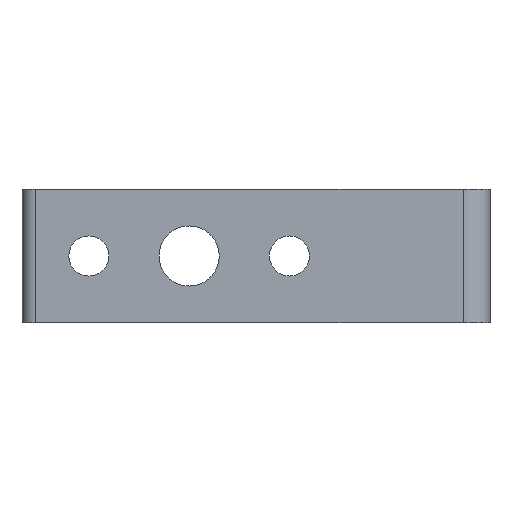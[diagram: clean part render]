
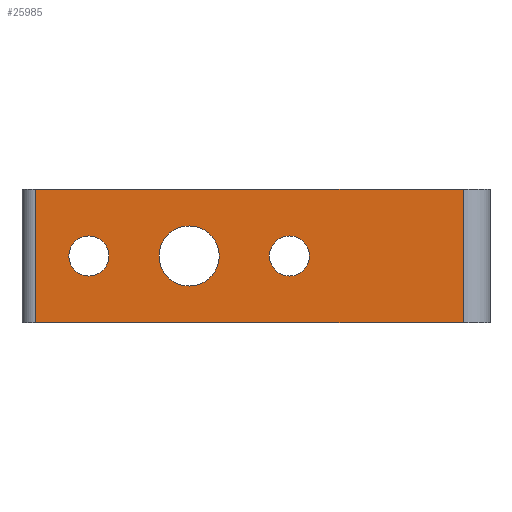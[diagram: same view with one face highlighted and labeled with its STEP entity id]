
A CAD part, left-side view. The second image highlights one B-rep face of the part: STEP entity #25985.
In plain terms, the highlighted planar face has unit normal (-1, 0, 0).
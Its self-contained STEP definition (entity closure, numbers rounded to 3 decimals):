
#472 = DIRECTION ( 'NONE',  ( 1., 0., 0. ) ) ;
#691 = LINE ( 'NONE', #5541, #21060 ) ;
#930 = CARTESIAN_POINT ( 'NONE',  ( 0., 30., 0. ) ) ;
#1106 = DIRECTION ( 'NONE',  ( -1., 0., 0. ) ) ;
#1277 = AXIS2_PLACEMENT_3D ( 'NONE', #13210, #472, #18331 ) ;
#1383 = DIRECTION ( 'NONE',  ( 0., -1., 0. ) ) ;
#1403 = VERTEX_POINT ( 'NONE', #29159 ) ;
#2052 = DIRECTION ( 'NONE',  ( -1., 0., 0. ) ) ;
#2522 = ORIENTED_EDGE ( 'NONE', *, *, #21834, .F. ) ;
#3502 = DIRECTION ( 'NONE',  ( 0., 0., 1. ) ) ;
#3549 = CARTESIAN_POINT ( 'NONE',  ( 0., 30., 3. ) ) ;
#3662 = LINE ( 'NONE', #4706, #23229 ) ;
#4160 = EDGE_LOOP ( 'NONE', ( #31033, #2522 ) ) ;
#4706 = CARTESIAN_POINT ( 'NONE',  ( 0., 68., 10. ) ) ;
#4753 = AXIS2_PLACEMENT_3D ( 'NONE', #930, #18781, #3502 ) ;
#4933 = ORIENTED_EDGE ( 'NONE', *, *, #16118, .F. ) ;
#5173 = ORIENTED_EDGE ( 'NONE', *, *, #17883, .F. ) ;
#5541 = CARTESIAN_POINT ( 'NONE',  ( 0., 4., 10. ) ) ;
#5678 = AXIS2_PLACEMENT_3D ( 'NONE', #16418, #1106, #18973 ) ;
#5794 = EDGE_CURVE ( 'NONE', #1403, #13247, #27911, .T. ) ;
#6539 = DIRECTION ( 'NONE',  ( 0., -1., 0. ) ) ;
#7187 = CARTESIAN_POINT ( 'NONE',  ( 0., 60., 0. ) ) ;
#7714 = ORIENTED_EDGE ( 'NONE', *, *, #32211, .T. ) ;
#7828 = CARTESIAN_POINT ( 'NONE',  ( 0., 45., -4.5 ) ) ;
#7860 = CARTESIAN_POINT ( 'NONE',  ( 0., 60., -3. ) ) ;
#8267 = AXIS2_PLACEMENT_3D ( 'NONE', #7187, #25040, #9742 ) ;
#8455 = EDGE_CURVE ( 'NONE', #31991, #20953, #3662, .T. ) ;
#8744 = EDGE_CURVE ( 'NONE', #18589, #27074, #20778, .T. ) ;
#8802 = CIRCLE ( 'NONE', #10596, 4.5 ) ;
#9204 = CARTESIAN_POINT ( 'NONE',  ( 0., 4., 10. ) ) ;
#9552 = VECTOR ( 'NONE', #1383, 1000. ) ;
#9742 = DIRECTION ( 'NONE',  ( 0., 0., 1. ) ) ;
#9843 = DIRECTION ( 'NONE',  ( -1., 0., 0. ) ) ;
#10109 = CARTESIAN_POINT ( 'NONE',  ( 0., 30., 0. ) ) ;
#10596 = AXIS2_PLACEMENT_3D ( 'NONE', #17359, #2052, #19894 ) ;
#10988 = ORIENTED_EDGE ( 'NONE', *, *, #8455, .T. ) ;
#11967 = CARTESIAN_POINT ( 'NONE',  ( 0., 4., -10. ) ) ;
#12006 = AXIS2_PLACEMENT_3D ( 'NONE', #25139, #9843, #27691 ) ;
#12664 = DIRECTION ( 'NONE',  ( 0., 0., 1. ) ) ;
#13210 = CARTESIAN_POINT ( 'NONE',  ( 0., 70., 10. ) ) ;
#13247 = VERTEX_POINT ( 'NONE', #7828 ) ;
#13270 = FACE_BOUND ( 'NONE', #20459, .T. ) ;
#14116 = CARTESIAN_POINT ( 'NONE',  ( 0., 70., 10. ) ) ;
#15928 = VERTEX_POINT ( 'NONE', #9204 ) ;
#16118 = EDGE_CURVE ( 'NONE', #27074, #18589, #27256, .T. ) ;
#16418 = CARTESIAN_POINT ( 'NONE',  ( 0., 60., 0. ) ) ;
#16850 = EDGE_CURVE ( 'NONE', #32576, #30564, #23373, .T. ) ;
#17359 = CARTESIAN_POINT ( 'NONE',  ( 0., 45., 0. ) ) ;
#17608 = CARTESIAN_POINT ( 'NONE',  ( 0., 68., 10. ) ) ;
#17855 = CARTESIAN_POINT ( 'NONE',  ( 0., 60., 3. ) ) ;
#17883 = EDGE_CURVE ( 'NONE', #30564, #32576, #23944, .T. ) ;
#18331 = DIRECTION ( 'NONE',  ( 0., 0., -1. ) ) ;
#18589 = VERTEX_POINT ( 'NONE', #24493 ) ;
#18781 = DIRECTION ( 'NONE',  ( -1., 0., 0. ) ) ;
#18874 = ORIENTED_EDGE ( 'NONE', *, *, #23837, .T. ) ;
#18973 = DIRECTION ( 'NONE',  ( 0., 0., 1. ) ) ;
#19227 = FACE_BOUND ( 'NONE', #4160, .T. ) ;
#19894 = DIRECTION ( 'NONE',  ( 0., 0., 1. ) ) ;
#19975 = DIRECTION ( 'NONE',  ( 0., 0., -1. ) ) ;
#20459 = EDGE_LOOP ( 'NONE', ( #4933, #31359 ) ) ;
#20778 = CIRCLE ( 'NONE', #4753, 3. ) ;
#20953 = VERTEX_POINT ( 'NONE', #21779 ) ;
#21060 = VECTOR ( 'NONE', #25762, 1000. ) ;
#21779 = CARTESIAN_POINT ( 'NONE',  ( 0., 68., -10. ) ) ;
#21834 = EDGE_CURVE ( 'NONE', #13247, #1403, #8802, .T. ) ;
#22565 = EDGE_CURVE ( 'NONE', #31991, #15928, #29898, .T. ) ;
#23128 = ORIENTED_EDGE ( 'NONE', *, *, #16850, .F. ) ;
#23229 = VECTOR ( 'NONE', #19975, 1000. ) ;
#23258 = PLANE ( 'NONE',  #1277 ) ;
#23373 = CIRCLE ( 'NONE', #5678, 3. ) ;
#23616 = AXIS2_PLACEMENT_3D ( 'NONE', #10109, #27955, #12664 ) ;
#23837 = EDGE_CURVE ( 'NONE', #27729, #15928, #691, .T. ) ;
#23838 = LINE ( 'NONE', #31866, #29038 ) ;
#23944 = CIRCLE ( 'NONE', #8267, 3. ) ;
#24493 = CARTESIAN_POINT ( 'NONE',  ( 0., 30., -3. ) ) ;
#25040 = DIRECTION ( 'NONE',  ( -1., 0., 0. ) ) ;
#25139 = CARTESIAN_POINT ( 'NONE',  ( 0., 45., 0. ) ) ;
#25356 = ORIENTED_EDGE ( 'NONE', *, *, #22565, .F. ) ;
#25762 = DIRECTION ( 'NONE',  ( 0., 0., 1. ) ) ;
#25766 = EDGE_LOOP ( 'NONE', ( #5173, #23128 ) ) ;
#25985 = ADVANCED_FACE ( 'NONE', ( #19227, #13270, #26848, #26050 ), #23258, .F. ) ;
#26050 = FACE_BOUND ( 'NONE', #25766, .T. ) ;
#26848 = FACE_OUTER_BOUND ( 'NONE', #31189, .T. ) ;
#27074 = VERTEX_POINT ( 'NONE', #3549 ) ;
#27256 = CIRCLE ( 'NONE', #23616, 3. ) ;
#27691 = DIRECTION ( 'NONE',  ( 0., 0., 1. ) ) ;
#27729 = VERTEX_POINT ( 'NONE', #11967 ) ;
#27911 = CIRCLE ( 'NONE', #12006, 4.5 ) ;
#27955 = DIRECTION ( 'NONE',  ( -1., 0., 0. ) ) ;
#29038 = VECTOR ( 'NONE', #6539, 1000. ) ;
#29159 = CARTESIAN_POINT ( 'NONE',  ( 0., 45., 4.5 ) ) ;
#29898 = LINE ( 'NONE', #14116, #9552 ) ;
#30564 = VERTEX_POINT ( 'NONE', #17855 ) ;
#31033 = ORIENTED_EDGE ( 'NONE', *, *, #5794, .F. ) ;
#31189 = EDGE_LOOP ( 'NONE', ( #25356, #10988, #7714, #18874 ) ) ;
#31359 = ORIENTED_EDGE ( 'NONE', *, *, #8744, .F. ) ;
#31866 = CARTESIAN_POINT ( 'NONE',  ( 0., 70., -10. ) ) ;
#31991 = VERTEX_POINT ( 'NONE', #17608 ) ;
#32211 = EDGE_CURVE ( 'NONE', #20953, #27729, #23838, .T. ) ;
#32576 = VERTEX_POINT ( 'NONE', #7860 ) ;
